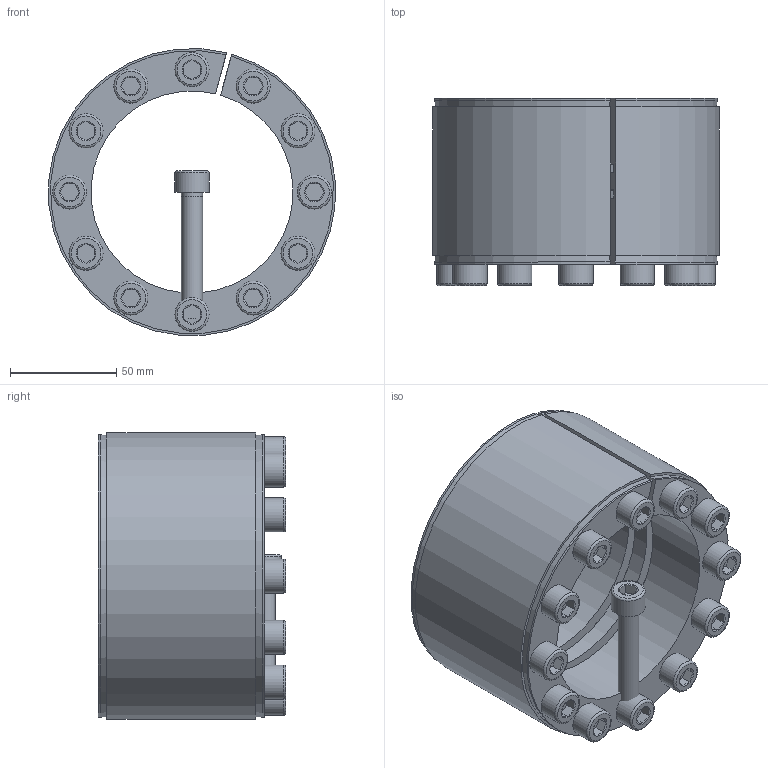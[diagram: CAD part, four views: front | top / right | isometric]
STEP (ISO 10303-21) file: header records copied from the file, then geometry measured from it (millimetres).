
FILE_DESCRIPTION( ( 'Unknown' ), '1' );
FILE_NAME( 'C:/Dokumente und Einstellungen/Sven/Desktop/homepage/cad - homepage/KBS11/KBS 11 - 95 x 135.stp', 'Unknown', ( 'Unknown' ), ( 'Unknown' ), 'XStep 1.0', 'Unknown', ' ' );
FILE_SCHEMA( ( 'automotive_design' ) );
Length unit declared in the file: millimetre
Products named in the file (3): Assem1; KBS 11 - 95 x 135; ISO EN DIN 4762 M10x60
Bounding box: 134.59 x 88 x 134.59 mm (x, y, z)
Volume: 973939.6 mm3; surface area: 272625.5 mm2
Topology: 15 solids, 15 shells, 437 faces, 929 edges, 574 vertices
Faces by surface type: plane 176, cylinder 136, cone 99, torus 26
Full cylindrical faces by diameter (mm): 9 x13, 10 x98, 16 x13
Entity records: 3002 total; most frequent: CARTESIAN_POINT 457, DIRECTION 444, ORIENTED_EDGE 322, AXIS2_PLACEMENT_3D 202, EDGE_LOOP 200, EDGE_CURVE 161, VERTEX_POINT 131, FACE_OUTER_BOUND 123
